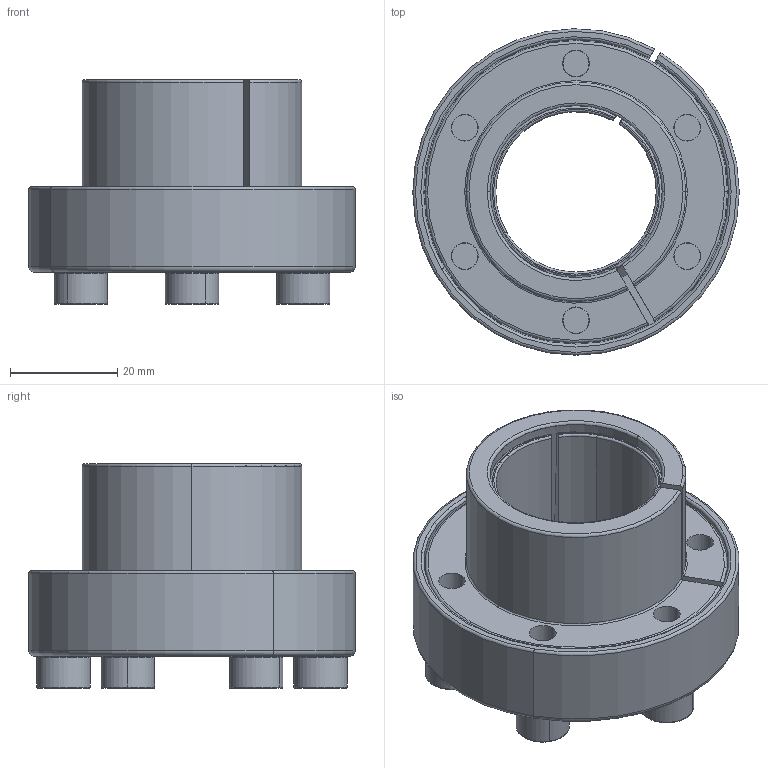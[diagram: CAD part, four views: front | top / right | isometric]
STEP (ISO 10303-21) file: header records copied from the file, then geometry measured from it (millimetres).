
FILE_DESCRIPTION (( 'STEP AP203' ), '1' );
FILE_NAME ('SAPL-C-30-41.STEP', '2013-07-24T04:48:28', ( 'MYCOM' ), ( '' ), 'SwSTEP 2.0', 'SolidWorks 2012', '' );
FILE_SCHEMA (( 'CONFIG_CONTROL_DESIGN' ));
Length unit declared in the file: millimetre
Products named in the file (1): SAPL-C-30-41
Bounding box: 61 x 61 x 42 mm (x, y, z)
Volume: 43661.2 mm3; surface area: 23947.8 mm2
Topology: 1 solids, 1 shells, 316 faces, 756 edges, 452 vertices
Faces by surface type: plane 103, cylinder 90, torus 72, cone 51
Entity records: 9301 total; most frequent: DIRECTION 1746, CARTESIAN_POINT 1671, ORIENTED_EDGE 1488, EDGE_CURVE 744, AXIS2_PLACEMENT_3D 719, VERTEX_POINT 452, CIRCLE 402, EDGE_LOOP 358
